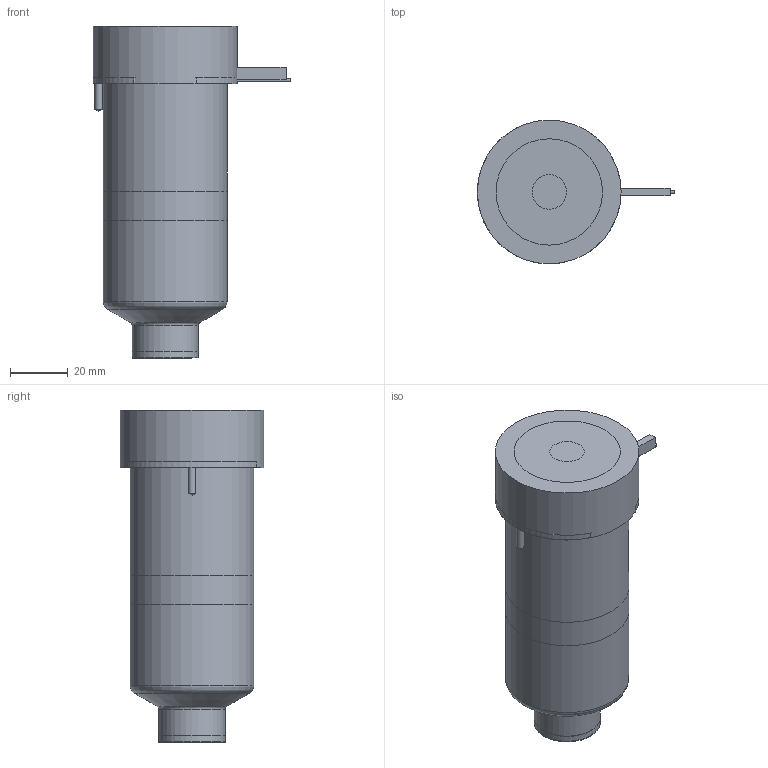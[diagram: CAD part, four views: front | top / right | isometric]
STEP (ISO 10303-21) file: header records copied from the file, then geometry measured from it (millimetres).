
FILE_DESCRIPTION(/* description */ (''),/* implementation_level */ '2;1');
FILE_NAME(/* name */ 'BXTBN-BXIBN-BXOBN27095_200C_b',/* time_stamp */ '2007-01-18T09:58:00+13:00',/* author */ (''),/* organization */ (''),/* preprocessor_version */ 'ST-DEVELOPER v9',/* originating_system */ 'UGS - NX 4.0',/* authorisation */ '');
FILE_SCHEMA (('CONFIG_CONTROL_DESIGN'));
Length unit declared in the file: millimetre
Products named in the file (1): BXTBN-BXIBN-BXOBN27095_200C_b
Bounding box: 68.6 x 50 x 115.45 mm (x, y, z)
Volume: 306224 mm3; surface area: 41406 mm2
Topology: 6 solids, 6 shells, 74 faces, 148 edges, 96 vertices
Faces by surface type: plane 33, cylinder 23, cone 9, torus 8, bspline 1
Full cylindrical faces by diameter (mm): 1 x3, 2 x1, 2.5 x2, 12 x1, 22.61 x1, 23.01 x2, 27.5 x1, 38.1 x1, 43 x2, 50 x1
Entity records: 1987 total; most frequent: CARTESIAN_POINT 481, DIRECTION 312, ORIENTED_EDGE 230, AXIS2_PLACEMENT_3D 137, EDGE_CURVE 115, EDGE_LOOP 110, VERTEX_POINT 90, ADVANCED_FACE 74
